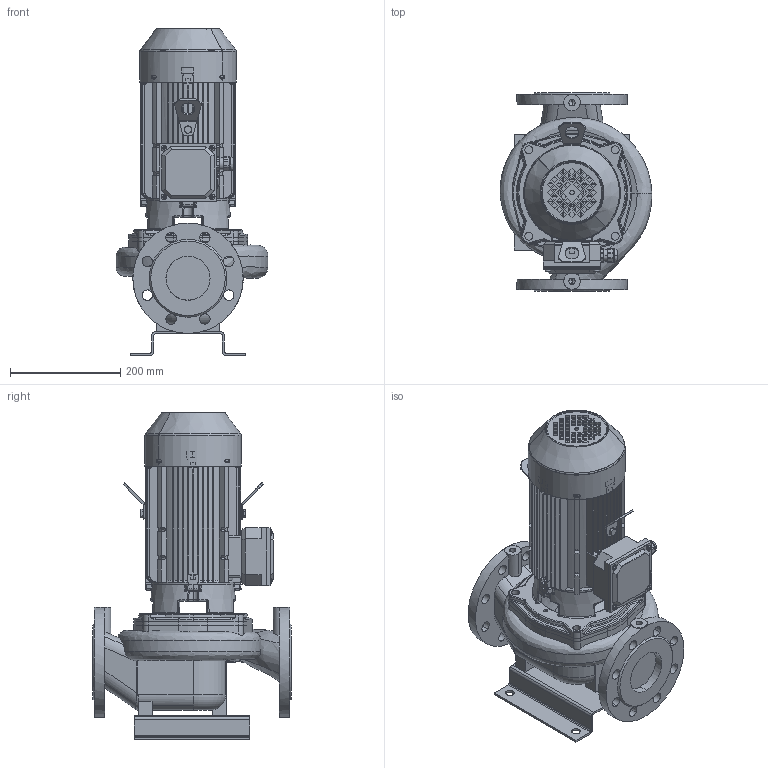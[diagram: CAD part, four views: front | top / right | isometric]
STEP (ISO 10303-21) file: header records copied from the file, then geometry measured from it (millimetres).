
FILE_DESCRIPTION(('STEP AP214'),'1');
FILE_NAME('export.stp','2018-05-29T07:28:26',(' '),(' '),'Spatial InterOp 3D',' ',' ');
FILE_SCHEMA(('AUTOMOTIVE_DESIGN { 1 0 10303 214 1 1 1 1 }'));
Length unit declared in the file: millimetre
Products named in the file (24): W_L80A4150_KP90F1; V_TLL65AB80A1102; V_PPL80A; V_JALKA35973; 160024; 160004_Valu; V_MKP90-2_F19; 480039; 480038___; 160141; 160137; 160138; 160139; 160140; Koura_Ale_M5; Plug_Blind_M20; Sealing_Plug_M20; DIN_7985-M5X8; DIN_7985-M5X12; 480037; 480036___; 160135; 160134; DIN_EN_24017_-_M8_16-Stainless_S
Assembly tree (28 placements, depth 4):
  W_L80A4150_KP90F1
    V_TLL65AB80A1102
    V_PPL80A
    V_JALKA35973
    V_MKP90-2_F19
      160024
        160004_Valu
      480039
        480038___
      160141
        160137
        160138
        160139
        160140
        Koura_Ale_M5
        Plug_Blind_M20
        Sealing_Plug_M20
        DIN_7985-M5X8
        DIN_7985-M5X12  x4
      480037
        480036___
      160135
      160134  x2
      DIN_EN_24017_-_M8_16-Stainless_S  x2
Bounding box: 275.55 x 360 x 593 mm (x, y, z)
Volume: 8136832.3 mm3; surface area: 1529008.7 mm2
Topology: 23 solids, 23 shells, 2720 faces, 7223 edges, 4529 vertices
Faces by surface type: plane 1100, cylinder 852, bspline 284, torus 280, cone 167, sphere 37
Entity records: 103972 total; most frequent: CARTESIAN_POINT 36227, ORIENTED_EDGE 13730, DIRECTION 12733, EDGE_CURVE 6865, AXIS2_PLACEMENT_3D 4823, VERTEX_POINT 4351, LINE 3087, VECTOR 3087
